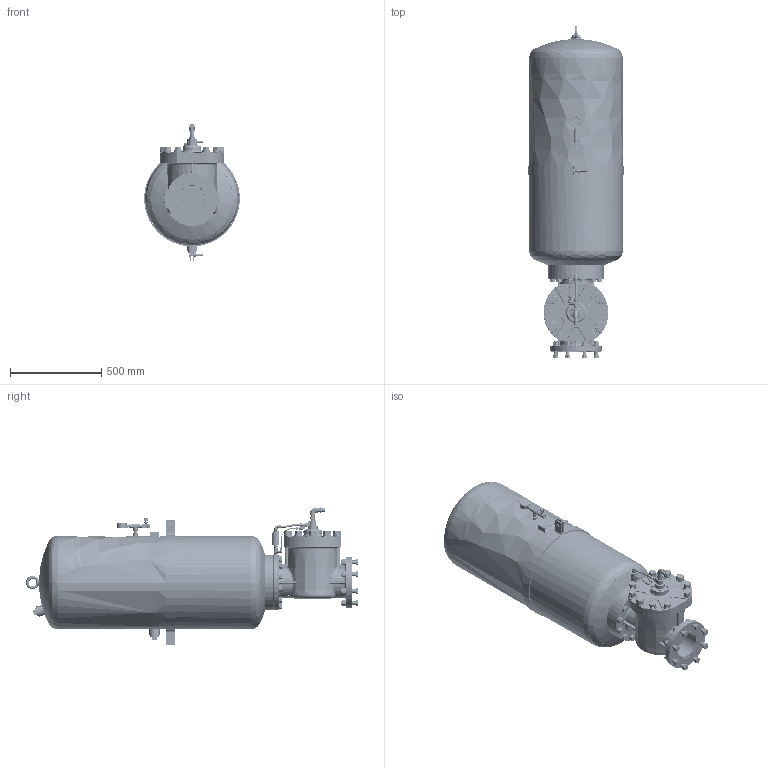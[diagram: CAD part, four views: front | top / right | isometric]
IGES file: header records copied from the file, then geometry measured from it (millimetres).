
Start section: SolidWorks IGES file using analytic representation for surfaces
Global section: file name: V:\WORK\08133\HP Defeature\blaster\EDB6-230A\IGS_STEP僼傽僀儖\EDB6-230A.IGS; native system: SolidWorks 2022; preprocessor: SolidWorks 2022; author: n-udagawa; date: 250409.142622; units: millimetre
Bounding box: 524 x 1817.37 x 752 mm (x, y, z)
Surface area: 3284353.1 mm2 (no closed solid volume)
Topology: 0 solids, 0 shells, 2729 faces, 38386 edges, 38358 vertices
Faces by surface type: bspline 1513, revolution 1216
